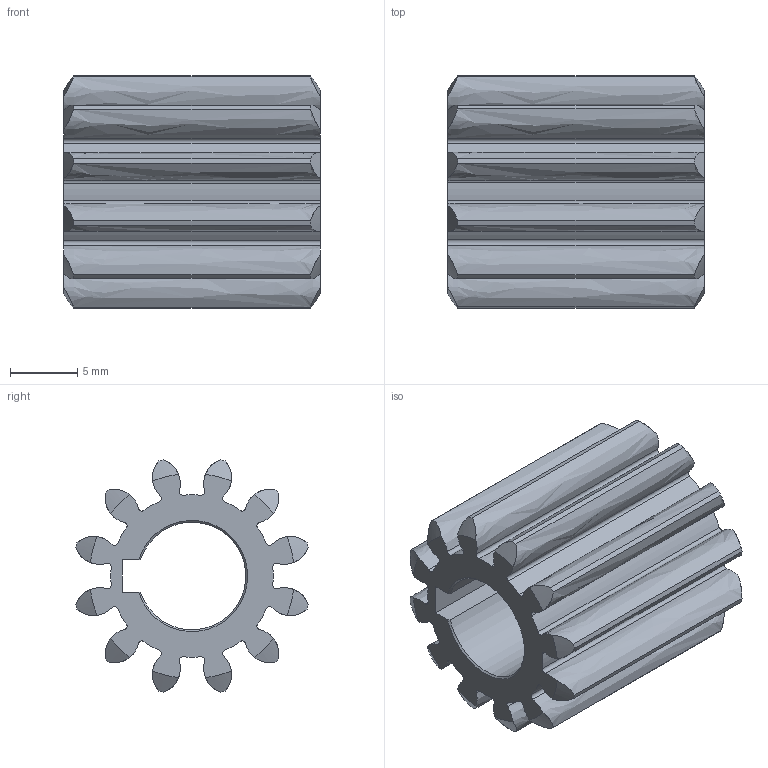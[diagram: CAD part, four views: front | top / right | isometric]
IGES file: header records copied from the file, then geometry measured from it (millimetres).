
Global section: file name: No Iges File Name specified; native system: AutoDesk Inventor R6.0; preprocessor: AutoDesk Inventor Iges Exporter R6.0; author: No Author specified; organization: No Organization specified; date: 20080103.181715; units: inch
Bounding box: 19.05 x 17.27 x 17.27 mm (x, y, z)
Surface area: 2654.8 mm2 (no closed solid volume)
Topology: 0 solids, 0 shells, 104 faces, 612 edges, 612 vertices
Faces by surface type: revolution 99, plane 5
